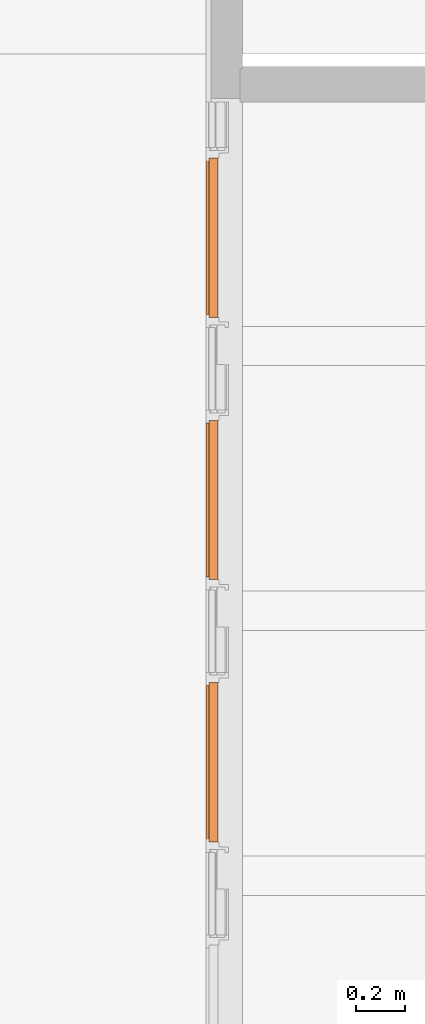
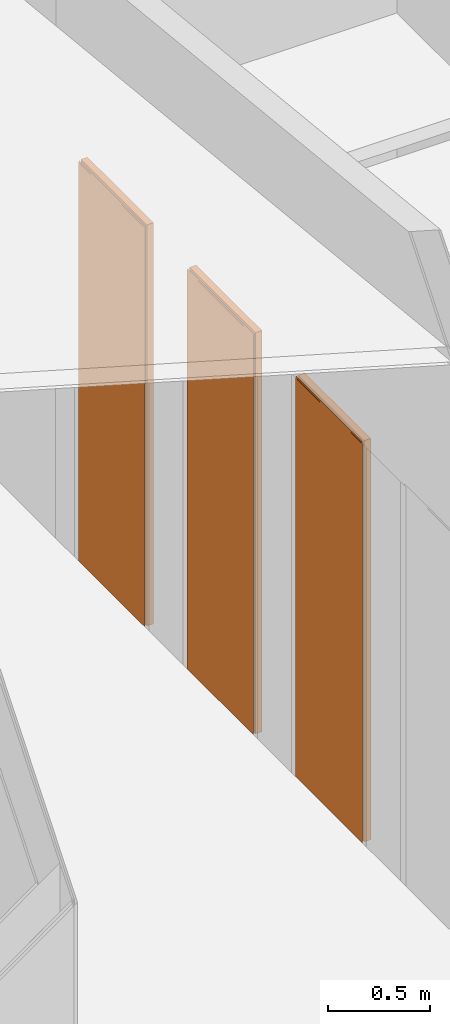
# One storey, part 42 of 43: 3 proxies, 1 element without a shape of its own.
"""IFC2X3 building model written with IfcOpenShell, lengths in millimetres."""

import ifcopenshell
import ifcopenshell.guid

model = None  # the IFC model being written
_history = None  # IfcOwnerHistory: only IFC2X3 demands one
_inside = {}  # id of a spatial element -> (the spatial element, [elements in it])
_under = {}  # id of a project, library or spatial element -> (it, [spatial elements below it])
_declared = {}  # id of a project -> (the project, [libraries it declares])
_typed = {}  # id of a type object -> (the type object, [elements of that type])
_made_of = {}  # id of a material, layer set ... -> (it, [elements and type objects made of it])


def new_model(schema):
    """Start an empty IFC model of exactly this schema.

    Asked for "IFC4X3", IfcOpenShell would pick the latest addendum, in which some entities
    have other attributes; the version numbers below select the first issue.
    IFC2X3 requires an IfcOwnerHistory on every rooted entity: one is made here for all.
    """
    global model, _history
    if schema == "IFC4X3":
        model = ifcopenshell.file(schema_version=(4, 3, 0, 0))
    else:
        model = ifcopenshell.file(schema=schema)
    _inside.clear()
    _under.clear()
    _declared.clear()
    _typed.clear()
    _made_of.clear()
    _history = None
    if model.schema == "IFC2X3":
        org = make("IfcOrganization", Name="unknown")
        user = make(
            "IfcPersonAndOrganization",
            ThePerson=make("IfcPerson", FamilyName="unknown"),
            TheOrganization=org,
        )
        app = make(
            "IfcApplication",
            ApplicationDeveloper=org,
            Version="unknown",
            ApplicationFullName="unknown",
            ApplicationIdentifier="unknown",
        )
        _history = make(
            "IfcOwnerHistory",
            OwningUser=user,
            OwningApplication=app,
            ChangeAction="ADDED",
            CreationDate=0,
        )
    return model


def make(cls, **values):
    """One entity of the class cls with the attributes given. An attribute that is None is left unset."""
    return model.create_entity(
        cls, **{name: value for name, value in values.items() if value is not None}
    )


def entity(cls, *values):
    """Any entity or typed value of the class cls, its attributes in the order of the schema. None: left unset."""
    e = model.create_entity(cls)
    for i, value in enumerate(values):
        if value is not None:
            e[i] = value
    return e


def rooted(cls, **values):
    """An entity with a GlobalId (a new one), such as an element, a storey or a relation."""
    return make(cls, GlobalId=ifcopenshell.guid.new(), OwnerHistory=_history, **values)


def si_unit(unit_type, name, prefix=None):
    """IfcSIUnit, for example si_unit("LENGTHUNIT", "METRE", prefix="MILLI")."""
    return make("IfcSIUnit", UnitType=unit_type, Prefix=prefix, Name=name)


def converted_unit(unit_type, name, factor, base, dimensions=None, offset=None):
    """IfcConversionBasedUnit, such as the inch: factor (a typed value) times the base unit."""
    return make(
        "IfcConversionBasedUnit"
        if offset is None
        else "IfcConversionBasedUnitWithOffset",
        ConversionOffset=offset,
        Dimensions=None
        if dimensions is None
        else entity("IfcDimensionalExponents", *dimensions),
        UnitType=unit_type,
        Name=name,
        ConversionFactor=make(
            "IfcMeasureWithUnit", ValueComponent=factor, UnitComponent=base
        ),
    )


def derived_unit(unit_type, elements):
    """IfcDerivedUnit: a product of units, each with its exponent."""
    return make(
        "IfcDerivedUnit",
        Elements=[
            make("IfcDerivedUnitElement", Unit=unit, Exponent=power)
            for unit, power in elements
        ],
        UnitType=unit_type,
    )


def money_unit(currency):
    """IfcMonetaryUnit."""
    return make("IfcMonetaryUnit", Currency=currency)


def assignment(units):
    """IfcUnitAssignment: the units of a project."""
    return None if units is None else make("IfcUnitAssignment", Units=units)


def point(xyz):
    """IfcCartesianPoint."""
    return None if xyz is None else make("IfcCartesianPoint", Coordinates=xyz)


def direction(xyz):
    """IfcDirection."""
    return None if xyz is None else make("IfcDirection", DirectionRatios=xyz)


def frame(location, z_axis=None, x_axis=None):
    """IfcAxis2Placement3D, a coordinate frame: its origin and axes. An axis left out is left unset."""
    return make(
        "IfcAxis2Placement3D",
        Location=point(location),
        Axis=direction(z_axis),
        RefDirection=direction(x_axis),
    )


def origin_with_axes():
    """The frame at (0, 0, 0) with the z axis (0, 0, 1) and the x axis (1, 0, 0) written out."""
    return frame((0.0, 0.0, 0.0), z_axis=(0.0, 0.0, 1.0), x_axis=(1.0, 0.0, 0.0))


def place(relative_to, where):
    """IfcLocalPlacement: puts the frame where relative to a parent placement (None: the world)."""
    return make(
        "IfcLocalPlacement", PlacementRelTo=relative_to, RelativePlacement=where
    )


def context(
    kind, dimensions, precision=None, world=None, true_north=None, identifier=None
):
    """IfcGeometricRepresentationContext, for example the 3D "Model" context."""
    return make(
        "IfcGeometricRepresentationContext",
        ContextIdentifier=identifier,
        ContextType=kind,
        CoordinateSpaceDimension=dimensions,
        Precision=precision,
        WorldCoordinateSystem=world,
        TrueNorth=true_north,
    )


def subcontext(parent, identifier, kind, view, scale=None):
    """IfcGeometricRepresentationSubContext, for example "Body" below "Model"."""
    return make(
        "IfcGeometricRepresentationSubContext",
        ContextIdentifier=identifier,
        ContextType=kind,
        ParentContext=parent,
        TargetScale=scale,
        TargetView=view,
    )


def project(units=None, contexts=None):
    """IfcProject with its units and contexts."""
    return rooted(
        "IfcProject",
        Name="project",
        RepresentationContexts=contexts,
        UnitsInContext=assignment(units),
    )


def spatial(cls, under=None, at=None, **own):
    """A site, building, storey or space (cls), placed at a placement, below another one or the project."""
    s = rooted(cls, ObjectPlacement=at, **own)
    if under is not None:
        _under.setdefault(under.id(), (under, []))[1].append(s)
    return s


def faces_of(points, faces, orient=None, outer=None):
    """IfcFace entities. A face is a list of loops; a loop is a list of indices into points, from 0.

    orient and outer hold one flag for each loop. By default every Orientation is true, the
    first loop of a face is its IfcFaceOuterBound and the others are IfcFaceBound.
    """
    made = []
    for i, loops in enumerate(faces):
        bounds = []
        for j, loop in enumerate(loops):
            is_outer = j == 0 if outer is None else outer[i][j]
            bounds.append(
                make(
                    "IfcFaceOuterBound" if is_outer else "IfcFaceBound",
                    Bound=make("IfcPolyLoop", Polygon=[points[k] for k in loop]),
                    Orientation=True if orient is None else orient[i][j],
                )
            )
        made.append(make("IfcFace", Bounds=bounds))
    return made


def open_shell(faces, orient=None, outer=None):
    """The faces of one IfcOpenShell. surface_model builds it on its shared points."""
    return ("IfcOpenShell", faces, orient, outer)


def faceted_brep(points, faces, orient=None, outer=None, voids=None):
    """IfcFacetedBrep: a solid bounded by flat faces; with voids (closed shells), ...WithVoids."""
    shared = [point(p) for p in points]
    hull = make("IfcClosedShell", CfsFaces=faces_of(shared, faces, orient, outer))
    if voids is None:
        return make("IfcFacetedBrep", Outer=hull)
    return make(
        "IfcFacetedBrepWithVoids",
        Outer=hull,
        Voids=[
            make(cls, CfsFaces=faces_of(shared, fs, o, b)) for cls, fs, o, b in voids
        ],
    )


def surface_model(cls, points, shells):
    """IfcFaceBasedSurfaceModel or IfcShellBasedSurfaceModel (cls): surfaces that need not close."""
    shared = [point(p) for p in points]
    made = [make(c, CfsFaces=faces_of(shared, fs, o, b)) for c, fs, o, b in shells]
    if cls == "IfcFaceBasedSurfaceModel":
        return make(cls, FbsmFaces=made)
    return make(cls, SbsmBoundary=made)


def shape(context_of_items, identifier, shape_type, items):
    """IfcShapeRepresentation: the items that make up one representation, for example the "Body"."""
    return make(
        "IfcShapeRepresentation",
        ContextOfItems=context_of_items,
        RepresentationIdentifier=identifier,
        RepresentationType=shape_type,
        Items=items,
    )


def source(mapping_origin, context_of_items, identifier, shape_type, items):
    """IfcRepresentationMap: a shape defined once, which mapped items show again and again."""
    return make(
        "IfcRepresentationMap",
        MappingOrigin=mapping_origin,
        MappedRepresentation=shape(context_of_items, identifier, shape_type, items),
    )


def transform(
    local_origin,
    x_axis=None,
    y_axis=None,
    z_axis=None,
    scale=None,
    scale2=None,
    scale3=None,
    uniform=True,
):
    """IfcCartesianTransformationOperator3D, or its non-uniform kind. x_axis, y_axis, z_axis: its Axis1, 2, 3."""
    if uniform:
        return make(
            "IfcCartesianTransformationOperator3D",
            Axis1=direction(x_axis),
            Axis2=direction(y_axis),
            LocalOrigin=point(local_origin),
            Scale=scale,
            Axis3=direction(z_axis),
        )
    return make(
        "IfcCartesianTransformationOperator3DnonUniform",
        Axis1=direction(x_axis),
        Axis2=direction(y_axis),
        LocalOrigin=point(local_origin),
        Scale=scale,
        Axis3=direction(z_axis),
        Scale2=scale2,
        Scale3=scale3,
    )


def mapped(mapping_source, mapping_target):
    """IfcMappedItem: shows the shape of a source again, moved by a transform."""
    return make(
        "IfcMappedItem", MappingSource=mapping_source, MappingTarget=mapping_target
    )


def material(Name=None, Category=None):
    """IfcMaterial."""
    return make("IfcMaterial", Name=Name, Category=Category)


def material_list(materials):
    """IfcMaterialList."""
    return make("IfcMaterialList", Materials=materials)


def made_of(thing, what):
    """Note that an element or type object is made of a material, layer set ...; save() writes the relation."""
    if what is not None:
        _made_of.setdefault(what.id(), (what, []))[1].append(thing)
    return thing


def type_object(cls, material=None, **own):
    """A type object (cls), such as IfcWallType, which elements share."""
    return made_of(rooted(cls, **own), material)


def element(
    cls,
    number,
    at=None,
    inside=None,
    cuts=None,
    type_object=None,
    material=None,
    context=None,
    identifier="Body",
    shape_type=None,
    held_by="IfcProductDefinitionShape",
    body=None,
    shapes=None,
    **own,
):
    """One element of the class cls, such as IfcWall. Its Tag is "e" and its number.

    at: its placement. inside: the storey or other place that contains it. cuts: it is an
    opening in that element (IfcRelVoidsElement). A single representation is given by context,
    identifier, shape_type and body (its items); several are given by shapes. held_by: the class
    of the entity that holds the representations. save() writes the other relations.
    """
    e = rooted(cls, Tag="e%d" % number, ObjectPlacement=at, **own)
    if body is not None:
        shapes = [shape(context, identifier, shape_type, body)]
    if shapes is not None:
        e.Representation = make(held_by, Representations=shapes)
    if inside is not None:
        _inside.setdefault(inside.id(), (inside, []))[1].append(e)
    if cuts is not None:
        rooted(
            "IfcRelVoidsElement", RelatingBuildingElement=cuts, RelatedOpeningElement=e
        )
    if type_object is not None:
        _typed.setdefault(type_object.id(), (type_object, []))[1].append(e)
    return made_of(e, material)


def aggregate(whole, parts):
    """IfcRelAggregates: a whole, such as a stair, and the parts it consists of."""
    return rooted("IfcRelAggregates", RelatingObject=whole, RelatedObjects=parts)


def save(model, path):
    """Write the relations noted so far, then the file.

    IfcRelAggregates (storeys below a building ...), IfcRelContainedInSpatialStructure (elements
    in a storey), IfcRelDefinesByType, IfcRelAssociatesMaterial and IfcRelDeclares: one each for
    every whole, place, type object, material and project.
    """
    for whole, parts in _under.values():
        aggregate(whole, parts)
    for where, things in _inside.values():
        rooted(
            "IfcRelContainedInSpatialStructure",
            RelatedElements=things,
            RelatingStructure=where,
        )
    for kind, things in _typed.values():
        rooted("IfcRelDefinesByType", RelatedObjects=things, RelatingType=kind)
    for what, things in _made_of.values():
        rooted("IfcRelAssociatesMaterial", RelatedObjects=things, RelatingMaterial=what)
    for by, libraries in _declared.values():
        rooted("IfcRelDeclares", RelatingContext=by, RelatedDefinitions=libraries)
    model.write(path)


model = new_model("IFC2X3")

# Units and contexts
model_context = context("Model", 3, precision=0.01, world=origin_with_axes(), true_north=direction((0.0, 1.0)))
body_context = subcontext(model_context, "Body", "Model", "MODEL_VIEW")
ifc_project = project(units=[si_unit("LENGTHUNIT", "METRE", prefix="MILLI"), si_unit("AREAUNIT", "SQUARE_METRE"), si_unit("VOLUMEUNIT", "CUBIC_METRE"), converted_unit("PLANEANGLEUNIT", "DEGREE", entity("IfcPlaneAngleMeasure", 0.0174532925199), si_unit("PLANEANGLEUNIT", "RADIAN"), dimensions=[0, 0, 0, 0, 0, 0, 0]), si_unit("SOLIDANGLEUNIT", "STERADIAN"), money_unit("EUR"), converted_unit("TIMEUNIT", "Year", entity("IfcTimeMeasure", 31556926.0), si_unit("TIMEUNIT", "SECOND"), dimensions=[0, 0, 1, 0, 0, 0, 0]), si_unit("MASSUNIT", "GRAM", prefix="KILO"), si_unit("THERMODYNAMICTEMPERATUREUNIT", "DEGREE_CELSIUS"), si_unit("LUMINOUSINTENSITYUNIT", "LUMEN"), si_unit("ENERGYUNIT", "JOULE", prefix="MEGA"), derived_unit("THERMALCONDUCTANCEUNIT", [(si_unit("POWERUNIT", "WATT"), 1), (si_unit("LENGTHUNIT", "METRE"), -1), (si_unit("THERMODYNAMICTEMPERATUREUNIT", "KELVIN"), -1)]), derived_unit("SPECIFICHEATCAPACITYUNIT", [(si_unit("ENERGYUNIT", "JOULE"), 1), (si_unit("MASSUNIT", "GRAM", prefix="KILO"), -1), (si_unit("THERMODYNAMICTEMPERATUREUNIT", "KELVIN"), -1)]), derived_unit("MASSDENSITYUNIT", [(si_unit("MASSUNIT", "GRAM", prefix="KILO"), 1), (si_unit("VOLUMEUNIT", "CUBIC_METRE"), -1)])], contexts=[model_context])

# Site, building, storey
site_placement = place(None, origin_with_axes())
site = spatial("IfcSite", under=ifc_project, at=site_placement, Name="L.Koidula tn 11b", CompositionType="ELEMENT")
building_placement = place(site_placement, origin_with_axes())
building = spatial("IfcBuilding", under=site, at=building_placement, Name="Rakvere Riigigümnaasium", CompositionType="ELEMENT")
storey_placement = place(building_placement, frame((0.0, 0.0, 6665.0), z_axis=(0.0, 0.0, 1.0), x_axis=(1.0, 0.0, 0.0)))
storey = spatial("IfcBuildingStorey", under=building, at=storey_placement, Name="3.korrus +6,66", CompositionType="ELEMENT", Elevation=6665.0)

# Curtain wall, proxies
curtain_wall_type = type_object("IfcCurtainWallType", Name="Curtain Wall Type", PredefinedType="NOTDEFINED")
curtain_wall_placement = place(storey_placement, frame((49969.604162, 20812.4526887, -4.66409044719e-06), z_axis=(0.0, 0.0, 1.0), x_axis=(1.0, 0.0, 0.0)))
curtain_wall = element("IfcCurtainWall", 1, at=curtain_wall_placement, inside=storey, type_object=curtain_wall_type, Name="SUS-03")
ifc_material_1 = material(Name="Alumiiniumprofiil (RAL 7021)")
ifc_material_2 = material(Name="MDF")
ifc_material_list = material_list([ifc_material_1, ifc_material_2])
building_element_proxy_type = type_object("IfcBuildingElementProxyType", Name="SU-Sile-90 3 x 2400 x 0", PredefinedType="NOTDEFINED")
shared_shape = source(origin_with_axes(), body_context, "Body", "SurfaceModel", [
    surface_model("IfcShellBasedSurfaceModel", [(649.995434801, 0.0, 0.0), (637.995434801, 0.0, 0.0), (637.995434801, 2400.0000468, 0.0), (649.995434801, 2412.0000468, 0.0)], [open_shell([[[0, 1, 2, 3]]])]),
    surface_model("IfcShellBasedSurfaceModel", [(637.995434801, 2400.0000468, 0.0), (12.0045778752, 2400.0000468, 0.0), (0.00457787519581, 2412.0000468, 0.0), (649.995434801, 2412.0000468, 0.0)], [open_shell([[[0, 1, 2, 3]]])]),
    surface_model("IfcShellBasedSurfaceModel", [(12.0045778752, 2400.0000468, 0.0), (12.0045778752, 0.0, 0.0), (0.00457787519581, 0.0, 0.0), (0.00457787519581, 2412.0000468, 0.0)], [open_shell([[[0, 1, 2, 3]]])]),
    surface_model("IfcShellBasedSurfaceModel", [(653.021556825, 0.0, 0.0), (637.995434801, 0.0, 0.0), (637.995434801, 2400.0000468, 0.0), (653.021556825, 2400.0000468, 0.0)], [open_shell([[[0, 1, 2, 3]]])]),
    surface_model("IfcShellBasedSurfaceModel", [(-3.02155016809, 2400.0000468, 0.0), (12.0045778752, 2400.0000468, 0.0), (12.0045778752, 0.0, 0.0), (-3.02155016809, 0.0, 0.0)], [open_shell([[[0, 1, 2, 3]]])]),
    faceted_brep([(0.00457787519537, 0.0, 11.8181818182), (649.995434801, 0.0, 11.8181818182), (649.995434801, 0.0, 50.0), (0.00457787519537, 0.0, 50.0), (0.00457787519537, 2412.0000468, 11.8181818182), (649.995434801, 2412.0000468, 11.8181818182), (649.995434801, 2412.0000468, 50.0), (0.00457787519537, 2412.0000468, 50.0)], [[[0, 1, 2, 3]], [[0, 4, 5, 1]], [[1, 5, 6, 2]], [[3, 2, 6, 7]], [[4, 0, 3, 7]], [[5, 4, 7, 6]]]),
    faceted_brep([(11.1472782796, 0.0, 0.0), (638.852734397, 0.0, 0.0), (638.852734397, 0.0, 11.8181818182), (11.1472782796, 0.0, 11.8181818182), (11.1472782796, 2398.21718939, 0.0), (638.852734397, 2398.21718939, 0.0), (638.852734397, 2398.21718939, 11.8181818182), (11.1472782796, 2398.21718939, 11.8181818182)], [[[0, 1, 2, 3]], [[0, 4, 5, 1]], [[1, 5, 6, 2]], [[3, 2, 6, 7]], [[4, 0, 3, 7]], [[5, 4, 7, 6]]]),
])
proxy_1_placement = place(curtain_wall_placement, frame((0.0, 0.0, 1200.00000697), z_axis=(0.0, 0.0, 1.0), x_axis=(0.0, -1.0, 0.0)))
proxy_1 = element("IfcBuildingElementProxy", 2, at=proxy_1_placement, type_object=building_element_proxy_type, material=ifc_material_list, Name="Panel-Curtain-Wa-007", context=body_context, shape_type="MappedRepresentation", body=[
    mapped(shared_shape, transform((325.0, 0.0, -1200.00000697), x_axis=(-1.0, 0.0, 0.0), y_axis=(0.0, 0.0, 1.0), z_axis=(0.0, 1.0, 0.0))),
])
proxy_2_placement = place(curtain_wall_placement, frame((0.0, 2140.0, 1200.00000697), z_axis=(0.0, 0.0, 1.0), x_axis=(0.0, -1.0, 0.0)))
proxy_2 = element("IfcBuildingElementProxy", 3, at=proxy_2_placement, type_object=building_element_proxy_type, material=ifc_material_list, Name="Panel-Curtain-Wa-005", context=body_context, shape_type="MappedRepresentation", body=[
    mapped(shared_shape, transform((325.0, 0.0, -1200.00000697), x_axis=(-1.0, 0.0, 0.0), y_axis=(0.0, 0.0, 1.0), z_axis=(0.0, 1.0, 0.0))),
])
proxy_3_placement = place(curtain_wall_placement, frame((0.0, 1070.0, 1200.00000697), z_axis=(0.0, 0.0, 1.0), x_axis=(0.0, -1.0, 0.0)))
proxy_3 = element("IfcBuildingElementProxy", 4, at=proxy_3_placement, type_object=building_element_proxy_type, material=ifc_material_list, Name="Panel-Curtain-Wa-006", context=body_context, shape_type="MappedRepresentation", body=[
    mapped(shared_shape, transform((325.0, 0.0, -1200.00000697), x_axis=(-1.0, 0.0, 0.0), y_axis=(0.0, 0.0, 1.0), z_axis=(0.0, 1.0, 0.0))),
])
aggregate(curtain_wall, [proxy_1, proxy_2, proxy_3])

save(model, "model.ifc")
